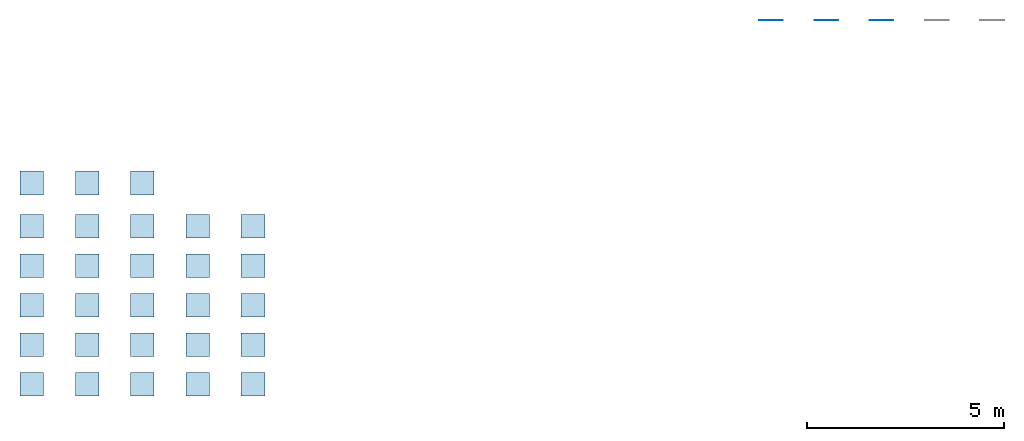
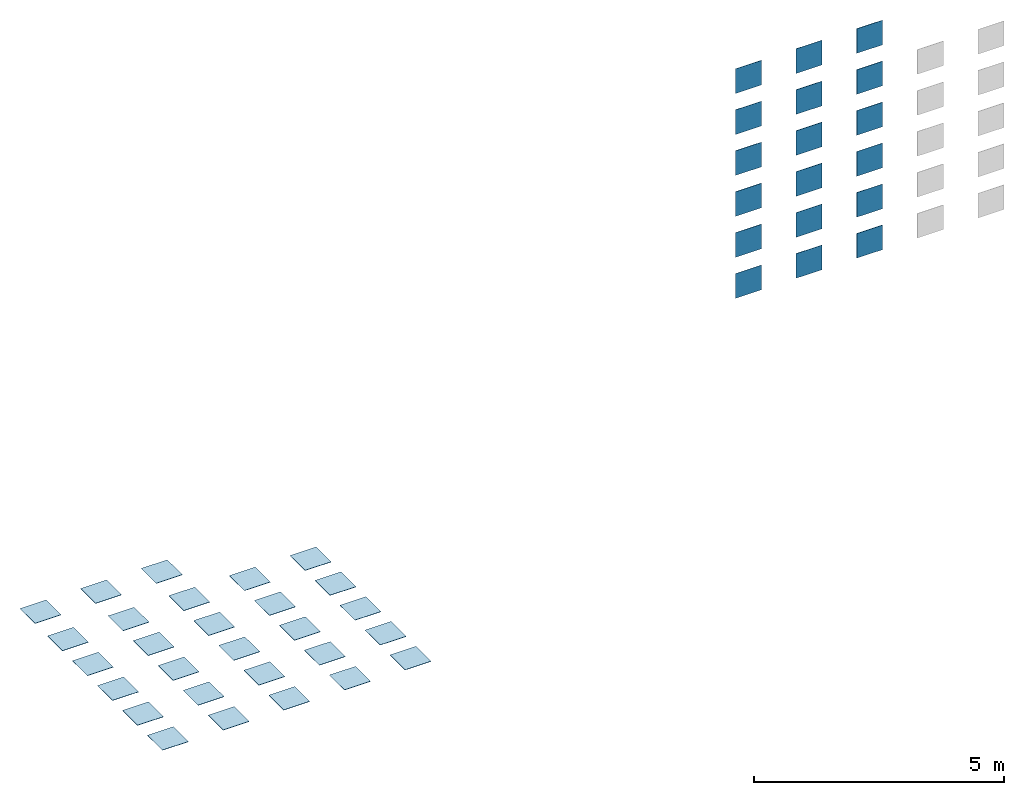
# One storey, part 1 of 2: 28 slabs, 18 walls.
"""IFC2X3 building model written with IfcOpenShell, lengths in metres."""

from ifc_helpers import new_model, entity, si_unit, converted_unit, derived_unit, direction, frame, frame_2d, origin, origin_2d_with_axis, place, context, subcontext, project, spatial, rectangle, extrude, material, layer, layer_set, layer_usage, type_object, element, save


model = new_model("IFC2X3")

# Units and contexts
model_context = context("Model", 3, precision=1e-05, world=origin(), true_north=direction((6.12303176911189e-17, 1.0)))
context_of_model = context(None, 3, precision=1e-05, world=origin(), true_north=direction((6.12303176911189e-17, 1.0)))
body_context = subcontext(model_context, "Body", "Model", "MODEL_VIEW")
ifc_project = project(units=[si_unit("LENGTHUNIT", "METRE"), si_unit("AREAUNIT", "SQUARE_METRE"), si_unit("VOLUMEUNIT", "CUBIC_METRE"), converted_unit("PLANEANGLEUNIT", "DEGREE", entity("IfcRatioMeasure", 0.0174532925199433), si_unit("PLANEANGLEUNIT", "RADIAN"), dimensions=[0, 0, 0, 0, 0, 0, 0]), si_unit("MASSUNIT", "GRAM", prefix="KILO"), si_unit("TIMEUNIT", "SECOND"), si_unit("FREQUENCYUNIT", "HERTZ"), si_unit("THERMODYNAMICTEMPERATUREUNIT", "DEGREE_CELSIUS"), derived_unit("THERMALTRANSMITTANCEUNIT", [(si_unit("MASSUNIT", "GRAM", prefix="KILO"), 1), (si_unit("THERMODYNAMICTEMPERATUREUNIT", "KELVIN"), -1), (si_unit("TIMEUNIT", "SECOND"), -3)]), derived_unit("VOLUMETRICFLOWRATEUNIT", [(si_unit("LENGTHUNIT", "METRE"), 3), (si_unit("TIMEUNIT", "SECOND"), -1)]), si_unit("ELECTRICCURRENTUNIT", "AMPERE"), si_unit("ELECTRICVOLTAGEUNIT", "VOLT"), si_unit("POWERUNIT", "WATT"), si_unit("FORCEUNIT", "NEWTON", prefix="KILO"), si_unit("ILLUMINANCEUNIT", "LUX"), si_unit("LUMINOUSFLUXUNIT", "LUMEN"), si_unit("LUMINOUSINTENSITYUNIT", "CANDELA"), si_unit("PRESSUREUNIT", "PASCAL")], contexts=[model_context, context_of_model])

# Site, building, storey
site_placement = place(None, origin())
site = spatial("IfcSite", under=ifc_project, at=site_placement, Name="Default", CompositionType="ELEMENT")
building_placement = place(site_placement, origin())
building = spatial("IfcBuilding", under=site, at=building_placement, CompositionType="ELEMENT")
storey_placement = place(building_placement, origin())
storey = spatial("IfcBuildingStorey", under=building, at=storey_placement, Name="BENACO FLOOR TILES", CompositionType="ELEMENT", Elevation=0.0)

# Slabs
ifc_material_1 = material(Name="VIVES VODEVIL NACAR 20x20")
ifc_layer_1 = layer(ifc_material_1, 0.008)
ifc_layer_set_1 = layer_set([ifc_layer_1], Name="Suelo:VIVES VODEVIL NACAR 20x20")
ifc_layer_usage_1 = layer_usage(ifc_layer_set_1, "AXIS3", "POSITIVE", 0.0)
slab_1_placement = place(storey_placement, origin())
element("IfcSlab", 1, at=slab_1_placement, inside=storey, material=ifc_layer_usage_1, Name="Suelo:VIVES VODEVIL NACAR 20x20", ObjectType="Suelo:VIVES VODEVIL NACAR 20x20", PredefinedType="FLOOR", context=body_context, shape_type="SweptSolid", body=[
    extrude(rectangle(XDim=0.6, YDim=0.6, at=origin_2d_with_axis()), frame((-1.89767402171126, -3.50495505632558, 0.0), z_axis=(0.0, 0.0, -1.0), x_axis=(0.0, 1.0, 0.0)), (0.0, 0.0, 1.0), 0.008),
])
ifc_material_2 = material(Name="VIVES VODEVIL ANTRACITA 20x20")
ifc_layer_2 = layer(ifc_material_2, 0.008)
ifc_layer_set_2 = layer_set([ifc_layer_2], Name="Suelo:VIVES VODEVIL ANTRACITA 20x20")
ifc_layer_usage_2 = layer_usage(ifc_layer_set_2, "AXIS3", "POSITIVE", 0.0)
slab_2_placement = place(storey_placement, origin())
element("IfcSlab", 2, at=slab_2_placement, inside=storey, material=ifc_layer_usage_2, Name="Suelo:VIVES VODEVIL ANTRACITA 20x20", ObjectType="Suelo:VIVES VODEVIL ANTRACITA 20x20", PredefinedType="FLOOR", context=body_context, shape_type="SweptSolid", body=[
    extrude(rectangle(XDim=0.6, YDim=0.6, at=origin_2d_with_axis()), frame((-0.497674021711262, -3.50495505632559, 0.0), z_axis=(0.0, 0.0, -1.0), x_axis=(0.0, 1.0, 0.0)), (0.0, 0.0, 1.0), 0.008),
])
ifc_material_3 = material(Name="VIVES VODEVIL MARRON 20x20")
ifc_layer_3 = layer(ifc_material_3, 0.008)
ifc_layer_set_3 = layer_set([ifc_layer_3], Name="Suelo:VIVES VODEVIL MARRON 20x20")
ifc_layer_usage_3 = layer_usage(ifc_layer_set_3, "AXIS3", "POSITIVE", 0.0)
slab_3_placement = place(storey_placement, origin())
element("IfcSlab", 3, at=slab_3_placement, inside=storey, material=ifc_layer_usage_3, Name="Suelo:VIVES VODEVIL MARRON 20x20", ObjectType="Suelo:VIVES VODEVIL MARRON 20x20", PredefinedType="FLOOR", context=body_context, shape_type="SweptSolid", body=[
    extrude(rectangle(XDim=0.6, YDim=0.6, at=origin_2d_with_axis()), frame((0.902325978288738, -3.50495505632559, 0.0), z_axis=(0.0, 0.0, -1.0), x_axis=(0.0, 1.0, 0.0)), (0.0, 0.0, 1.0), 0.008),
])
ifc_material_4 = material(Name="VIVES VODEVIL HUMO 20x20")
ifc_layer_4 = layer(ifc_material_4, 0.008)
ifc_layer_set_4 = layer_set([ifc_layer_4], Name="Suelo:VIVES VODEVIL HUMO 20x20")
ifc_layer_usage_4 = layer_usage(ifc_layer_set_4, "AXIS3", "POSITIVE", 0.0)
slab_4_placement = place(storey_placement, origin())
element("IfcSlab", 4, at=slab_4_placement, inside=storey, material=ifc_layer_usage_4, Name="Suelo:VIVES VODEVIL HUMO 20x20", ObjectType="Suelo:VIVES VODEVIL HUMO 20x20", PredefinedType="FLOOR", context=body_context, shape_type="SweptSolid", body=[
    extrude(rectangle(XDim=0.600000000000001, YDim=0.6, at=frame_2d((2.4980018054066e-16, 0.0), x_axis=(1.0, 0.0))), frame((-1.89767402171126, -4.60495505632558, 0.0), z_axis=(0.0, 0.0, -1.0), x_axis=(0.0, 1.0, 0.0)), (0.0, 0.0, 1.0), 0.008),
])
ifc_material_5 = material(Name="VIVES VODEVIL NUBE 20x20")
ifc_layer_5 = layer(ifc_material_5, 0.008)
ifc_layer_set_5 = layer_set([ifc_layer_5], Name="Suelo:VIVES VODEVIL NUBE 20x20")
ifc_layer_usage_5 = layer_usage(ifc_layer_set_5, "AXIS3", "POSITIVE", 0.0)
slab_5_placement = place(storey_placement, origin())
element("IfcSlab", 5, at=slab_5_placement, inside=storey, material=ifc_layer_usage_5, Name="Suelo:VIVES VODEVIL NUBE 20x20", ObjectType="Suelo:VIVES VODEVIL NUBE 20x20", PredefinedType="FLOOR", context=body_context, shape_type="SweptSolid", body=[
    extrude(rectangle(XDim=0.600000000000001, YDim=0.6, at=frame_2d((2.4980018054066e-16, 0.0), x_axis=(1.0, 0.0))), frame((-0.497674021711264, -4.60495505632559, 0.0), z_axis=(0.0, 0.0, -1.0), x_axis=(0.0, 1.0, 0.0)), (0.0, 0.0, 1.0), 0.008),
])
ifc_material_6 = material(Name="VIVES VODEVIL BEIGE 20x20")
ifc_layer_6 = layer(ifc_material_6, 0.008)
ifc_layer_set_6 = layer_set([ifc_layer_6], Name="Suelo:VIVES VODEVIL BEIGE 20x20")
ifc_layer_usage_6 = layer_usage(ifc_layer_set_6, "AXIS3", "POSITIVE", 0.0)
slab_6_placement = place(storey_placement, origin())
element("IfcSlab", 6, at=slab_6_placement, inside=storey, material=ifc_layer_usage_6, Name="Suelo:VIVES VODEVIL BEIGE 20x20", ObjectType="Suelo:VIVES VODEVIL BEIGE 20x20", PredefinedType="FLOOR", context=body_context, shape_type="SweptSolid", body=[
    extrude(rectangle(XDim=0.600000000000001, YDim=0.6, at=frame_2d((2.4980018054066e-16, 0.0), x_axis=(1.0, 0.0))), frame((0.902325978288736, -4.60495505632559, 0.0), z_axis=(0.0, 0.0, -1.0), x_axis=(0.0, 1.0, 0.0)), (0.0, 0.0, 1.0), 0.008),
])
ifc_material_7 = material(Name="VIVES VODEVIL CORAL 20x20")
ifc_layer_7 = layer(ifc_material_7, 0.008)
ifc_layer_set_7 = layer_set([ifc_layer_7], Name="Suelo:VIVES VODEVIL CORAL 20x20")
ifc_layer_usage_7 = layer_usage(ifc_layer_set_7, "AXIS3", "POSITIVE", 0.0)
slab_7_placement = place(storey_placement, origin())
element("IfcSlab", 7, at=slab_7_placement, inside=storey, material=ifc_layer_usage_7, Name="Suelo:VIVES VODEVIL CORAL 20x20", ObjectType="Suelo:VIVES VODEVIL CORAL 20x20", PredefinedType="FLOOR", context=body_context, shape_type="SweptSolid", body=[
    extrude(rectangle(XDim=0.600000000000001, YDim=0.6, at=frame_2d((2.4980018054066e-16, 0.0), x_axis=(1.0, 0.0))), frame((2.30232597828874, -4.6049550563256, 0.0), z_axis=(0.0, 0.0, -1.0), x_axis=(0.0, 1.0, 0.0)), (0.0, 0.0, 1.0), 0.008),
])
ifc_material_8 = material(Name="VIVES VODEVIL MAR 20x20")
ifc_layer_8 = layer(ifc_material_8, 0.008)
ifc_layer_set_8 = layer_set([ifc_layer_8], Name="Suelo:VIVES VODEVIL MAR 20x20")
ifc_layer_usage_8 = layer_usage(ifc_layer_set_8, "AXIS3", "POSITIVE", 0.0)
slab_8_placement = place(storey_placement, origin())
element("IfcSlab", 8, at=slab_8_placement, inside=storey, material=ifc_layer_usage_8, Name="Suelo:VIVES VODEVIL MAR 20x20", ObjectType="Suelo:VIVES VODEVIL MAR 20x20", PredefinedType="FLOOR", context=body_context, shape_type="SweptSolid", body=[
    extrude(rectangle(XDim=0.600000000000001, YDim=0.6, at=frame_2d((2.4980018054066e-16, 0.0), x_axis=(1.0, 0.0))), frame((3.70232597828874, -4.6049550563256, 0.0), z_axis=(0.0, 0.0, -1.0), x_axis=(0.0, 1.0, 0.0)), (0.0, 0.0, 1.0), 0.008),
])
ifc_material_9 = material(Name="VIVES BENACO HUMO 20x20")
ifc_layer_9 = layer(ifc_material_9, 0.008)
ifc_layer_set_9 = layer_set([ifc_layer_9], Name="Suelo:VIVES BENACO HUMO 20x20")
ifc_layer_usage_9 = layer_usage(ifc_layer_set_9, "AXIS3", "POSITIVE", 0.0)
slab_9_placement = place(storey_placement, origin())
element("IfcSlab", 9, at=slab_9_placement, inside=storey, material=ifc_layer_usage_9, Name="Suelo:VIVES BENACO HUMO 20x20", ObjectType="Suelo:VIVES BENACO HUMO 20x20", PredefinedType="FLOOR", context=body_context, shape_type="SweptSolid", body=[
    extrude(rectangle(XDim=0.6, YDim=0.6, at=origin_2d_with_axis()), frame((-1.89767402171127, -5.60495505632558, 0.0), z_axis=(0.0, 0.0, -1.0), x_axis=(0.0, 1.0, 0.0)), (0.0, 0.0, 1.0), 0.008),
])
ifc_material_10 = material(Name="VIVES BENACO NUBE 20x20")
ifc_layer_10 = layer(ifc_material_10, 0.008)
ifc_layer_set_10 = layer_set([ifc_layer_10], Name="Suelo:VIVES BENACO NUBE 20x20")
ifc_layer_usage_10 = layer_usage(ifc_layer_set_10, "AXIS3", "POSITIVE", 0.0)
slab_10_placement = place(storey_placement, origin())
element("IfcSlab", 10, at=slab_10_placement, inside=storey, material=ifc_layer_usage_10, Name="Suelo:VIVES BENACO NUBE 20x20", ObjectType="Suelo:VIVES BENACO NUBE 20x20", PredefinedType="FLOOR", context=body_context, shape_type="SweptSolid", body=[
    extrude(rectangle(XDim=0.6, YDim=0.6, at=origin_2d_with_axis()), frame((-0.497674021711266, -5.60495505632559, 0.0), z_axis=(0.0, 0.0, -1.0), x_axis=(0.0, 1.0, 0.0)), (0.0, 0.0, 1.0), 0.008),
])
ifc_material_11 = material(Name="VIVES BENACO BEIGE 20x20")
ifc_layer_11 = layer(ifc_material_11, 0.008)
ifc_layer_set_11 = layer_set([ifc_layer_11], Name="Suelo:VIVES BENACO BEIGE 20x20")
ifc_layer_usage_11 = layer_usage(ifc_layer_set_11, "AXIS3", "POSITIVE", 0.0)
slab_11_placement = place(storey_placement, origin())
element("IfcSlab", 11, at=slab_11_placement, inside=storey, material=ifc_layer_usage_11, Name="Suelo:VIVES BENACO BEIGE 20x20", ObjectType="Suelo:VIVES BENACO BEIGE 20x20", PredefinedType="FLOOR", context=body_context, shape_type="SweptSolid", body=[
    extrude(rectangle(XDim=0.6, YDim=0.6, at=origin_2d_with_axis()), frame((0.902325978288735, -5.60495505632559, 0.0), z_axis=(0.0, 0.0, -1.0), x_axis=(0.0, 1.0, 0.0)), (0.0, 0.0, 1.0), 0.008),
])
ifc_material_12 = material(Name="VIVES BENACO CORAL 20x20")
ifc_layer_12 = layer(ifc_material_12, 0.008)
ifc_layer_set_12 = layer_set([ifc_layer_12], Name="Suelo:VIVES BENACO CORAL 20x20")
ifc_layer_usage_12 = layer_usage(ifc_layer_set_12, "AXIS3", "POSITIVE", 0.0)
slab_12_placement = place(storey_placement, origin())
element("IfcSlab", 12, at=slab_12_placement, inside=storey, material=ifc_layer_usage_12, Name="Suelo:VIVES BENACO CORAL 20x20", ObjectType="Suelo:VIVES BENACO CORAL 20x20", PredefinedType="FLOOR", context=body_context, shape_type="SweptSolid", body=[
    extrude(rectangle(XDim=0.6, YDim=0.6, at=origin_2d_with_axis()), frame((2.30232597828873, -5.6049550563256, 0.0), z_axis=(0.0, 0.0, -1.0), x_axis=(0.0, 1.0, 0.0)), (0.0, 0.0, 1.0), 0.008),
])
ifc_material_13 = material(Name="VIVES BENACO MAR 20x20")
ifc_layer_13 = layer(ifc_material_13, 0.008)
ifc_layer_set_13 = layer_set([ifc_layer_13], Name="Suelo:VIVES BENACO MAR 20x20")
ifc_layer_usage_13 = layer_usage(ifc_layer_set_13, "AXIS3", "POSITIVE", 0.0)
slab_13_placement = place(storey_placement, origin())
element("IfcSlab", 13, at=slab_13_placement, inside=storey, material=ifc_layer_usage_13, Name="Suelo:VIVES BENACO MAR 20x20", ObjectType="Suelo:VIVES BENACO MAR 20x20", PredefinedType="FLOOR", context=body_context, shape_type="SweptSolid", body=[
    extrude(rectangle(XDim=0.6, YDim=0.6, at=origin_2d_with_axis()), frame((3.70232597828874, -5.6049550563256, 0.0), z_axis=(0.0, 0.0, -1.0), x_axis=(0.0, 1.0, 0.0)), (0.0, 0.0, 1.0), 0.008),
])
ifc_material_14 = material(Name="VIVES CAROLE HUMO 20x20")
ifc_layer_14 = layer(ifc_material_14, 0.008)
ifc_layer_set_14 = layer_set([ifc_layer_14], Name="Suelo:VIVES CAROLE HUMO 20x20")
ifc_layer_usage_14 = layer_usage(ifc_layer_set_14, "AXIS3", "POSITIVE", 0.0)
slab_14_placement = place(storey_placement, origin())
element("IfcSlab", 14, at=slab_14_placement, inside=storey, material=ifc_layer_usage_14, Name="Suelo:VIVES CAROLE HUMO 20x20", ObjectType="Suelo:VIVES CAROLE HUMO 20x20", PredefinedType="FLOOR", context=body_context, shape_type="SweptSolid", body=[
    extrude(rectangle(XDim=0.6, YDim=0.6, at=frame_2d((1.08246744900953e-15, 0.0), x_axis=(1.0, 0.0))), frame((-1.89767402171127, -6.60495505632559, 0.0), z_axis=(0.0, 0.0, -1.0), x_axis=(0.0, 1.0, 0.0)), (0.0, 0.0, 1.0), 0.008),
])
ifc_material_15 = material(Name="VIVES CAROLE NUBE 20x20")
ifc_layer_15 = layer(ifc_material_15, 0.008)
ifc_layer_set_15 = layer_set([ifc_layer_15], Name="Suelo:VIVES CAROLE NUBE 20x20")
ifc_layer_usage_15 = layer_usage(ifc_layer_set_15, "AXIS3", "POSITIVE", 0.0)
slab_15_placement = place(storey_placement, origin())
element("IfcSlab", 15, at=slab_15_placement, inside=storey, material=ifc_layer_usage_15, Name="Suelo:VIVES CAROLE NUBE 20x20", ObjectType="Suelo:VIVES CAROLE NUBE 20x20", PredefinedType="FLOOR", context=body_context, shape_type="SweptSolid", body=[
    extrude(rectangle(XDim=0.6, YDim=0.6, at=frame_2d((-1.08246744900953e-15, 0.0), x_axis=(1.0, 0.0))), frame((-0.497674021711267, -6.60495505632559, 0.0), z_axis=(0.0, 0.0, -1.0), x_axis=(0.0, 1.0, 0.0)), (0.0, 0.0, 1.0), 0.008),
])
ifc_material_16 = material(Name="VIVES CAROLE BEIGE 20x20")
ifc_layer_16 = layer(ifc_material_16, 0.008)
ifc_layer_set_16 = layer_set([ifc_layer_16], Name="Suelo:VIVES CAROLE BEIGE 20x20")
ifc_layer_usage_16 = layer_usage(ifc_layer_set_16, "AXIS3", "POSITIVE", 0.0)
slab_16_placement = place(storey_placement, origin())
element("IfcSlab", 16, at=slab_16_placement, inside=storey, material=ifc_layer_usage_16, Name="Suelo:VIVES CAROLE BEIGE 20x20", ObjectType="Suelo:VIVES CAROLE BEIGE 20x20", PredefinedType="FLOOR", context=body_context, shape_type="SweptSolid", body=[
    extrude(rectangle(XDim=0.6, YDim=0.6, at=frame_2d((1.08246744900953e-15, 0.0), x_axis=(1.0, 0.0))), frame((0.902325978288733, -6.60495505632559, 0.0), z_axis=(0.0, 0.0, -1.0), x_axis=(0.0, 1.0, 0.0)), (0.0, 0.0, 1.0), 0.008),
])
ifc_material_17 = material(Name="VIVES CAROLE CORAL 20x20")
ifc_layer_17 = layer(ifc_material_17, 0.008)
ifc_layer_set_17 = layer_set([ifc_layer_17], Name="Suelo:VIVES CAROLE CORAL 20x20")
ifc_layer_usage_17 = layer_usage(ifc_layer_set_17, "AXIS3", "POSITIVE", 0.0)
slab_17_placement = place(storey_placement, origin())
element("IfcSlab", 17, at=slab_17_placement, inside=storey, material=ifc_layer_usage_17, Name="Suelo:VIVES CAROLE CORAL 20x20", ObjectType="Suelo:VIVES CAROLE CORAL 20x20", PredefinedType="FLOOR", context=body_context, shape_type="SweptSolid", body=[
    extrude(rectangle(XDim=0.6, YDim=0.6, at=frame_2d((-1.08246744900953e-15, 0.0), x_axis=(1.0, 0.0))), frame((2.30232597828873, -6.6049550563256, 0.0), z_axis=(0.0, 0.0, -1.0), x_axis=(0.0, 1.0, 0.0)), (0.0, 0.0, 1.0), 0.008),
])
ifc_material_18 = material(Name="VIVES CAROLE MAR 20x20")
ifc_layer_18 = layer(ifc_material_18, 0.008)
ifc_layer_set_18 = layer_set([ifc_layer_18], Name="Suelo:VIVES CAROLE MAR 20x20")
ifc_layer_usage_18 = layer_usage(ifc_layer_set_18, "AXIS3", "POSITIVE", 0.0)
slab_18_placement = place(storey_placement, origin())
element("IfcSlab", 18, at=slab_18_placement, inside=storey, material=ifc_layer_usage_18, Name="Suelo:VIVES CAROLE MAR 20x20", ObjectType="Suelo:VIVES CAROLE MAR 20x20", PredefinedType="FLOOR", context=body_context, shape_type="SweptSolid", body=[
    extrude(rectangle(XDim=0.6, YDim=0.6, at=frame_2d((1.08246744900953e-15, 0.0), x_axis=(1.0, 0.0))), frame((3.70232597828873, -6.6049550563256, 0.0), z_axis=(0.0, 0.0, -1.0), x_axis=(0.0, 1.0, 0.0)), (0.0, 0.0, 1.0), 0.008),
])
ifc_material_19 = material(Name="VIVES PIGNETO HUMO 20x20")
ifc_layer_19 = layer(ifc_material_19, 0.008)
ifc_layer_set_19 = layer_set([ifc_layer_19], Name="Suelo:VIVES PIGNETO HUMO 20x20")
ifc_layer_usage_19 = layer_usage(ifc_layer_set_19, "AXIS3", "POSITIVE", 0.0)
slab_19_placement = place(storey_placement, origin())
element("IfcSlab", 19, at=slab_19_placement, inside=storey, material=ifc_layer_usage_19, Name="Suelo:VIVES PIGNETO HUMO 20x20", ObjectType="Suelo:VIVES PIGNETO HUMO 20x20", PredefinedType="FLOOR", context=body_context, shape_type="SweptSolid", body=[
    extrude(rectangle(XDim=0.6, YDim=0.6, at=origin_2d_with_axis()), frame((-1.89767402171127, -7.60495505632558, 0.0), z_axis=(0.0, 0.0, -1.0), x_axis=(0.0, 1.0, 0.0)), (0.0, 0.0, 1.0), 0.008),
])
ifc_material_20 = material(Name="VIVES PIGNETO NUBE 20x20")
ifc_layer_20 = layer(ifc_material_20, 0.008)
ifc_layer_set_20 = layer_set([ifc_layer_20], Name="Suelo:VIVES PIGNETO NUBE 20x20")
ifc_layer_usage_20 = layer_usage(ifc_layer_set_20, "AXIS3", "POSITIVE", 0.0)
slab_20_placement = place(storey_placement, origin())
element("IfcSlab", 20, at=slab_20_placement, inside=storey, material=ifc_layer_usage_20, Name="Suelo:VIVES PIGNETO NUBE 20x20", ObjectType="Suelo:VIVES PIGNETO NUBE 20x20", PredefinedType="FLOOR", context=body_context, shape_type="SweptSolid", body=[
    extrude(rectangle(XDim=0.6, YDim=0.6, at=origin_2d_with_axis()), frame((-0.497674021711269, -7.60495505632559, 0.0), z_axis=(0.0, 0.0, -1.0), x_axis=(0.0, 1.0, 0.0)), (0.0, 0.0, 1.0), 0.008),
])
ifc_material_21 = material(Name="VIVES PIGNETO BEIGE 20x20")
ifc_layer_21 = layer(ifc_material_21, 0.008)
ifc_layer_set_21 = layer_set([ifc_layer_21], Name="Suelo:VIVES PIGNETO BEIGE 20x20")
ifc_layer_usage_21 = layer_usage(ifc_layer_set_21, "AXIS3", "POSITIVE", 0.0)
slab_21_placement = place(storey_placement, origin())
element("IfcSlab", 21, at=slab_21_placement, inside=storey, material=ifc_layer_usage_21, Name="Suelo:VIVES PIGNETO BEIGE 20x20", ObjectType="Suelo:VIVES PIGNETO BEIGE 20x20", PredefinedType="FLOOR", context=body_context, shape_type="SweptSolid", body=[
    extrude(rectangle(XDim=0.6, YDim=0.6, at=origin_2d_with_axis()), frame((0.902325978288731, -7.60495505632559, 0.0), z_axis=(0.0, 0.0, -1.0), x_axis=(0.0, 1.0, 0.0)), (0.0, 0.0, 1.0), 0.008),
])
ifc_material_22 = material(Name="VIVES PIGNETO CORAL 20x20")
ifc_layer_22 = layer(ifc_material_22, 0.008)
ifc_layer_set_22 = layer_set([ifc_layer_22], Name="Suelo:VIVES PIGNETO CORAL 20x20")
ifc_layer_usage_22 = layer_usage(ifc_layer_set_22, "AXIS3", "POSITIVE", 0.0)
slab_22_placement = place(storey_placement, origin())
element("IfcSlab", 22, at=slab_22_placement, inside=storey, material=ifc_layer_usage_22, Name="Suelo:VIVES PIGNETO CORAL 20x20", ObjectType="Suelo:VIVES PIGNETO CORAL 20x20", PredefinedType="FLOOR", context=body_context, shape_type="SweptSolid", body=[
    extrude(rectangle(XDim=0.6, YDim=0.6, at=origin_2d_with_axis()), frame((2.30232597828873, -7.6049550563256, 0.0), z_axis=(0.0, 0.0, -1.0), x_axis=(0.0, 1.0, 0.0)), (0.0, 0.0, 1.0), 0.008),
])
ifc_material_23 = material(Name="VIVES PIGNETO MAR 20x20")
ifc_layer_23 = layer(ifc_material_23, 0.008)
ifc_layer_set_23 = layer_set([ifc_layer_23], Name="Suelo:VIVES PIGNETO MAR 20x20")
ifc_layer_usage_23 = layer_usage(ifc_layer_set_23, "AXIS3", "POSITIVE", 0.0)
slab_23_placement = place(storey_placement, origin())
element("IfcSlab", 23, at=slab_23_placement, inside=storey, material=ifc_layer_usage_23, Name="Suelo:VIVES PIGNETO MAR 20x20", ObjectType="Suelo:VIVES PIGNETO MAR 20x20", PredefinedType="FLOOR", context=body_context, shape_type="SweptSolid", body=[
    extrude(rectangle(XDim=0.6, YDim=0.6, at=origin_2d_with_axis()), frame((3.70232597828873, -7.6049550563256, 0.0), z_axis=(0.0, 0.0, -1.0), x_axis=(0.0, 1.0, 0.0)), (0.0, 0.0, 1.0), 0.008),
])
ifc_material_24 = material(Name="VIVES TERCELLO HUMO 20x20")
ifc_layer_24 = layer(ifc_material_24, 0.008)
ifc_layer_set_24 = layer_set([ifc_layer_24], Name="Suelo:VIVES TERCELLO HUMO 20x20")
ifc_layer_usage_24 = layer_usage(ifc_layer_set_24, "AXIS3", "POSITIVE", 0.0)
slab_24_placement = place(storey_placement, origin())
element("IfcSlab", 24, at=slab_24_placement, inside=storey, material=ifc_layer_usage_24, Name="Suelo:VIVES TERCELLO HUMO 20x20", ObjectType="Suelo:VIVES TERCELLO HUMO 20x20", PredefinedType="FLOOR", context=body_context, shape_type="SweptSolid", body=[
    extrude(rectangle(XDim=0.6, YDim=0.6, at=frame_2d((-1.08246744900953e-15, 0.0), x_axis=(1.0, 0.0))), frame((-1.89767402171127, -8.60495505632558, 0.0), z_axis=(0.0, 0.0, -1.0), x_axis=(0.0, 1.0, 0.0)), (0.0, 0.0, 1.0), 0.008),
])
ifc_material_25 = material(Name="VIVES TERCELLO NUBE 20x20")
ifc_layer_25 = layer(ifc_material_25, 0.008)
ifc_layer_set_25 = layer_set([ifc_layer_25], Name="Suelo:VIVES TERCELLO NUBE 20x20")
ifc_layer_usage_25 = layer_usage(ifc_layer_set_25, "AXIS3", "POSITIVE", 0.0)
slab_25_placement = place(storey_placement, origin())
element("IfcSlab", 25, at=slab_25_placement, inside=storey, material=ifc_layer_usage_25, Name="Suelo:VIVES TERCELLO NUBE 20x20", ObjectType="Suelo:VIVES TERCELLO NUBE 20x20", PredefinedType="FLOOR", context=body_context, shape_type="SweptSolid", body=[
    extrude(rectangle(XDim=0.6, YDim=0.6, at=frame_2d((1.08246744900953e-15, 0.0), x_axis=(1.0, 0.0))), frame((-0.497674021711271, -8.60495505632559, 0.0), z_axis=(0.0, 0.0, -1.0), x_axis=(0.0, 1.0, 0.0)), (0.0, 0.0, 1.0), 0.008),
])
ifc_material_26 = material(Name="VIVES TERCELLO BEIGE 20x20")
ifc_layer_26 = layer(ifc_material_26, 0.008)
ifc_layer_set_26 = layer_set([ifc_layer_26], Name="Suelo:VIVES TERCELLO BEIGE 20x20")
ifc_layer_usage_26 = layer_usage(ifc_layer_set_26, "AXIS3", "POSITIVE", 0.0)
slab_26_placement = place(storey_placement, origin())
element("IfcSlab", 26, at=slab_26_placement, inside=storey, material=ifc_layer_usage_26, Name="Suelo:VIVES TERCELLO BEIGE 20x20", ObjectType="Suelo:VIVES TERCELLO BEIGE 20x20", PredefinedType="FLOOR", context=body_context, shape_type="SweptSolid", body=[
    extrude(rectangle(XDim=0.6, YDim=0.6, at=frame_2d((-1.08246744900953e-15, 0.0), x_axis=(1.0, 0.0))), frame((0.90232597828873, -8.60495505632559, 0.0), z_axis=(0.0, 0.0, -1.0), x_axis=(0.0, 1.0, 0.0)), (0.0, 0.0, 1.0), 0.008),
])
ifc_material_27 = material(Name="VIVES TERCELLO CORAL 20x20")
ifc_layer_27 = layer(ifc_material_27, 0.008)
ifc_layer_set_27 = layer_set([ifc_layer_27], Name="Suelo:VIVES TERCELLO CORAL 20x20")
ifc_layer_usage_27 = layer_usage(ifc_layer_set_27, "AXIS3", "POSITIVE", 0.0)
slab_27_placement = place(storey_placement, origin())
element("IfcSlab", 27, at=slab_27_placement, inside=storey, material=ifc_layer_usage_27, Name="Suelo:VIVES TERCELLO CORAL 20x20", ObjectType="Suelo:VIVES TERCELLO CORAL 20x20", PredefinedType="FLOOR", context=body_context, shape_type="SweptSolid", body=[
    extrude(rectangle(XDim=0.6, YDim=0.6, at=frame_2d((1.08246744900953e-15, 0.0), x_axis=(1.0, 0.0))), frame((2.30232597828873, -8.6049550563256, 0.0), z_axis=(0.0, 0.0, -1.0), x_axis=(0.0, 1.0, 0.0)), (0.0, 0.0, 1.0), 0.008),
])
ifc_material_28 = material(Name="VIVES TERCELLO MAR 20x20")
ifc_layer_28 = layer(ifc_material_28, 0.008)
ifc_layer_set_28 = layer_set([ifc_layer_28], Name="Suelo:VIVES TERCELLO MAR 20x20")
ifc_layer_usage_28 = layer_usage(ifc_layer_set_28, "AXIS3", "POSITIVE", 0.0)
slab_28_placement = place(storey_placement, origin())
element("IfcSlab", 28, at=slab_28_placement, inside=storey, material=ifc_layer_usage_28, Name="Suelo:VIVES TERCELLO MAR 20x20", ObjectType="Suelo:VIVES TERCELLO MAR 20x20", PredefinedType="FLOOR", context=body_context, shape_type="SweptSolid", body=[
    extrude(rectangle(XDim=0.6, YDim=0.6, at=frame_2d((-1.08246744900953e-15, 0.0), x_axis=(1.0, 0.0))), frame((3.70232597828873, -8.6049550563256, 0.0), z_axis=(0.0, 0.0, -1.0), x_axis=(0.0, 1.0, 0.0)), (0.0, 0.0, 1.0), 0.008),
])

# Walls
ifc_layer_29 = layer(ifc_material_1, 0.008)
ifc_layer_set_29 = layer_set([ifc_layer_29], Name="Muro básico:VIVES VODEVIL NACAR 20x20")
ifc_layer_usage_29 = layer_usage(ifc_layer_set_29, "AXIS2", "NEGATIVE", 0.004)
wall_type_1 = type_object("IfcWallType", Name="Muro básico:VIVES VODEVIL NACAR 20x20", PredefinedType="STANDARD", material=ifc_layer_set_29)
wall_1_placement = place(storey_placement, frame((16.5278886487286, 0.618172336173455, 3.7)))
element("IfcWallStandardCase", 29, at=wall_1_placement, inside=storey, type_object=wall_type_1, material=ifc_layer_usage_29, Name="Muro básico:VIVES VODEVIL NACAR 20x20", ObjectType="Muro básico:VIVES VODEVIL NACAR 20x20", context=body_context, shape_type="SweptSolid", body=[
    extrude(rectangle(XDim=0.6, YDim=0.00800000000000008, at=frame_2d((0.3, -8.67361737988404e-18), x_axis=(-1.0, 0.0))), origin(), (0.0, 0.0, 1.0), 0.6),
])
ifc_layer_30 = layer(ifc_material_2, 0.008)
ifc_layer_set_30 = layer_set([ifc_layer_30], Name="Muro básico:VIVES VODEVIL ANTRACITA 20x20")
ifc_layer_usage_30 = layer_usage(ifc_layer_set_30, "AXIS2", "NEGATIVE", 0.004)
wall_type_2 = type_object("IfcWallType", Name="Muro básico:VIVES VODEVIL ANTRACITA 20x20", PredefinedType="STANDARD", material=ifc_layer_set_30)
wall_2_placement = place(storey_placement, frame((17.9278886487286, 0.618172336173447, 3.7)))
element("IfcWallStandardCase", 30, at=wall_2_placement, inside=storey, type_object=wall_type_2, material=ifc_layer_usage_30, Name="Muro básico:VIVES VODEVIL ANTRACITA 20x20", ObjectType="Muro básico:VIVES VODEVIL ANTRACITA 20x20", context=body_context, shape_type="SweptSolid", body=[
    extrude(rectangle(XDim=0.6, YDim=0.00800000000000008, at=frame_2d((0.3, -8.67361737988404e-18), x_axis=(-1.0, 0.0))), origin(), (0.0, 0.0, 1.0), 0.6),
])
ifc_layer_31 = layer(ifc_material_3, 0.008)
ifc_layer_set_31 = layer_set([ifc_layer_31], Name="Muro básico:VIVES VODEVIL MARRÓN 20x20")
ifc_layer_usage_31 = layer_usage(ifc_layer_set_31, "AXIS2", "NEGATIVE", 0.004)
wall_type_3 = type_object("IfcWallType", Name="Muro básico:VIVES VODEVIL MARRÓN 20x20", PredefinedType="STANDARD", material=ifc_layer_set_31)
wall_3_placement = place(storey_placement, frame((19.3278886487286, 0.61817233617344, 3.7)))
element("IfcWallStandardCase", 31, at=wall_3_placement, inside=storey, type_object=wall_type_3, material=ifc_layer_usage_31, Name="Muro básico:VIVES VODEVIL MARRÓN 20x20", ObjectType="Muro básico:VIVES VODEVIL MARRÓN 20x20", context=body_context, shape_type="SweptSolid", body=[
    extrude(rectangle(XDim=0.600000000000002, YDim=0.00800000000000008, at=frame_2d((0.300000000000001, -8.67361737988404e-18), x_axis=(-1.0, 0.0))), origin(), (0.0, 0.0, 1.0), 0.6),
])
ifc_layer_32 = layer(ifc_material_4, 0.008)
ifc_layer_set_32 = layer_set([ifc_layer_32], Name="Muro básico:VIVES VODEVIL HUMO 20x20")
ifc_layer_usage_32 = layer_usage(ifc_layer_set_32, "AXIS2", "NEGATIVE", 0.004)
wall_type_4 = type_object("IfcWallType", Name="Muro básico:VIVES VODEVIL HUMO 20x20", PredefinedType="STANDARD", material=ifc_layer_set_32)
wall_4_placement = place(storey_placement, frame((16.5278886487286, 0.618172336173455, 2.7)))
element("IfcWallStandardCase", 32, at=wall_4_placement, inside=storey, type_object=wall_type_4, material=ifc_layer_usage_32, Name="Muro básico:VIVES VODEVIL HUMO 20x20", ObjectType="Muro básico:VIVES VODEVIL HUMO 20x20", context=body_context, shape_type="SweptSolid", body=[
    extrude(rectangle(XDim=0.6, YDim=0.00800000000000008, at=frame_2d((0.3, -8.67361737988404e-18), x_axis=(-1.0, 0.0))), origin(), (0.0, 0.0, 1.0), 0.6),
])
ifc_layer_33 = layer(ifc_material_5, 0.008)
ifc_layer_set_33 = layer_set([ifc_layer_33], Name="Muro básico:VIVES VODEVIL NUBE 20x20")
ifc_layer_usage_33 = layer_usage(ifc_layer_set_33, "AXIS2", "NEGATIVE", 0.004)
wall_type_5 = type_object("IfcWallType", Name="Muro básico:VIVES VODEVIL NUBE 20x20", PredefinedType="STANDARD", material=ifc_layer_set_33)
wall_5_placement = place(storey_placement, frame((17.9278886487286, 0.618172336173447, 2.7)))
element("IfcWallStandardCase", 33, at=wall_5_placement, inside=storey, type_object=wall_type_5, material=ifc_layer_usage_33, Name="Muro básico:VIVES VODEVIL NUBE 20x20", ObjectType="Muro básico:VIVES VODEVIL NUBE 20x20", context=body_context, shape_type="SweptSolid", body=[
    extrude(rectangle(XDim=0.6, YDim=0.00800000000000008, at=frame_2d((0.3, -8.67361737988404e-18), x_axis=(-1.0, 0.0))), origin(), (0.0, 0.0, 1.0), 0.6),
])
ifc_layer_34 = layer(ifc_material_6, 0.008)
ifc_layer_set_34 = layer_set([ifc_layer_34], Name="Muro básico:VIVES VODEVIL BEIGE 20x20")
ifc_layer_usage_34 = layer_usage(ifc_layer_set_34, "AXIS2", "NEGATIVE", 0.004)
wall_type_6 = type_object("IfcWallType", Name="Muro básico:VIVES VODEVIL BEIGE 20x20", PredefinedType="STANDARD", material=ifc_layer_set_34)
wall_6_placement = place(storey_placement, frame((19.3278886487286, 0.61817233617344, 2.7)))
element("IfcWallStandardCase", 34, at=wall_6_placement, inside=storey, type_object=wall_type_6, material=ifc_layer_usage_34, Name="Muro básico:VIVES VODEVIL BEIGE 20x20", ObjectType="Muro básico:VIVES VODEVIL BEIGE 20x20", context=body_context, shape_type="SweptSolid", body=[
    extrude(rectangle(XDim=0.600000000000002, YDim=0.00800000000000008, at=frame_2d((0.300000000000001, -8.67361737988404e-18), x_axis=(-1.0, 0.0))), origin(), (0.0, 0.0, 1.0), 0.6),
])
ifc_layer_35 = layer(ifc_material_9, 0.008)
ifc_layer_set_35 = layer_set([ifc_layer_35], Name="Muro básico:VIVES BENACO HUMO 20x20")
ifc_layer_usage_35 = layer_usage(ifc_layer_set_35, "AXIS2", "NEGATIVE", 0.004)
wall_type_7 = type_object("IfcWallType", Name="Muro básico:VIVES BENACO HUMO 20x20", PredefinedType="STANDARD", material=ifc_layer_set_35)
wall_7_placement = place(storey_placement, frame((16.5278886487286, 0.618172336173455, 1.7)))
element("IfcWallStandardCase", 35, at=wall_7_placement, inside=storey, type_object=wall_type_7, material=ifc_layer_usage_35, Name="Muro básico:VIVES BENACO HUMO 20x20", ObjectType="Muro básico:VIVES BENACO HUMO 20x20", context=body_context, shape_type="SweptSolid", body=[
    extrude(rectangle(XDim=0.6, YDim=0.00800000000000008, at=frame_2d((0.3, -8.67361737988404e-18), x_axis=(-1.0, 0.0))), origin(), (0.0, 0.0, 1.0), 0.6),
])
ifc_layer_36 = layer(ifc_material_10, 0.008)
ifc_layer_set_36 = layer_set([ifc_layer_36], Name="Muro básico:VIVES BENACO NUBE 20x20")
ifc_layer_usage_36 = layer_usage(ifc_layer_set_36, "AXIS2", "NEGATIVE", 0.004)
wall_type_8 = type_object("IfcWallType", Name="Muro básico:VIVES BENACO NUBE 20x20", PredefinedType="STANDARD", material=ifc_layer_set_36)
wall_8_placement = place(storey_placement, frame((17.9278886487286, 0.618172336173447, 1.7)))
element("IfcWallStandardCase", 36, at=wall_8_placement, inside=storey, type_object=wall_type_8, material=ifc_layer_usage_36, Name="Muro básico:VIVES BENACO NUBE 20x20", ObjectType="Muro básico:VIVES BENACO NUBE 20x20", context=body_context, shape_type="SweptSolid", body=[
    extrude(rectangle(XDim=0.6, YDim=0.00800000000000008, at=frame_2d((0.3, -8.67361737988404e-18), x_axis=(-1.0, 0.0))), origin(), (0.0, 0.0, 1.0), 0.6),
])
ifc_layer_37 = layer(ifc_material_11, 0.008)
ifc_layer_set_37 = layer_set([ifc_layer_37], Name="Muro básico:VIVES BENACO BEIGE 20x20")
ifc_layer_usage_37 = layer_usage(ifc_layer_set_37, "AXIS2", "NEGATIVE", 0.004)
wall_type_9 = type_object("IfcWallType", Name="Muro básico:VIVES BENACO BEIGE 20x20", PredefinedType="STANDARD", material=ifc_layer_set_37)
wall_9_placement = place(storey_placement, frame((19.3278886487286, 0.61817233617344, 1.7)))
element("IfcWallStandardCase", 37, at=wall_9_placement, inside=storey, type_object=wall_type_9, material=ifc_layer_usage_37, Name="Muro básico:VIVES BENACO BEIGE 20x20", ObjectType="Muro básico:VIVES BENACO BEIGE 20x20", context=body_context, shape_type="SweptSolid", body=[
    extrude(rectangle(XDim=0.600000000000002, YDim=0.00800000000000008, at=frame_2d((0.300000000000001, -8.67361737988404e-18), x_axis=(-1.0, 0.0))), origin(), (0.0, 0.0, 1.0), 0.6),
])
ifc_layer_38 = layer(ifc_material_14, 0.008)
ifc_layer_set_38 = layer_set([ifc_layer_38], Name="Muro básico:VIVES CAROLE HUMO 20x20")
ifc_layer_usage_38 = layer_usage(ifc_layer_set_38, "AXIS2", "NEGATIVE", 0.004)
wall_type_10 = type_object("IfcWallType", Name="Muro básico:VIVES CAROLE HUMO 20x20", PredefinedType="STANDARD", material=ifc_layer_set_38)
wall_10_placement = place(storey_placement, frame((16.5278886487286, 0.618172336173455, 0.7)))
element("IfcWallStandardCase", 38, at=wall_10_placement, inside=storey, type_object=wall_type_10, material=ifc_layer_usage_38, Name="Muro básico:VIVES CAROLE HUMO 20x20", ObjectType="Muro básico:VIVES CAROLE HUMO 20x20", context=body_context, shape_type="SweptSolid", body=[
    extrude(rectangle(XDim=0.6, YDim=0.00800000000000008, at=frame_2d((0.3, -8.67361737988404e-18), x_axis=(-1.0, 0.0))), origin(), (0.0, 0.0, 1.0), 0.6),
])
ifc_layer_39 = layer(ifc_material_15, 0.008)
ifc_layer_set_39 = layer_set([ifc_layer_39], Name="Muro básico:VIVES CAROLE NUBE 20x20")
ifc_layer_usage_39 = layer_usage(ifc_layer_set_39, "AXIS2", "NEGATIVE", 0.004)
wall_type_11 = type_object("IfcWallType", Name="Muro básico:VIVES CAROLE NUBE 20x20", PredefinedType="STANDARD", material=ifc_layer_set_39)
wall_11_placement = place(storey_placement, frame((17.9278886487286, 0.618172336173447, 0.7)))
element("IfcWallStandardCase", 39, at=wall_11_placement, inside=storey, type_object=wall_type_11, material=ifc_layer_usage_39, Name="Muro básico:VIVES CAROLE NUBE 20x20", ObjectType="Muro básico:VIVES CAROLE NUBE 20x20", context=body_context, shape_type="SweptSolid", body=[
    extrude(rectangle(XDim=0.6, YDim=0.00800000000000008, at=frame_2d((0.3, -8.67361737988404e-18), x_axis=(-1.0, 0.0))), origin(), (0.0, 0.0, 1.0), 0.6),
])
ifc_layer_40 = layer(ifc_material_16, 0.008)
ifc_layer_set_40 = layer_set([ifc_layer_40], Name="Muro básico:VIVES CAROLE BEIGE 20x20")
ifc_layer_usage_40 = layer_usage(ifc_layer_set_40, "AXIS2", "NEGATIVE", 0.004)
wall_type_12 = type_object("IfcWallType", Name="Muro básico:VIVES CAROLE BEIGE 20x20", PredefinedType="STANDARD", material=ifc_layer_set_40)
wall_12_placement = place(storey_placement, frame((19.3278886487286, 0.61817233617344, 0.7)))
element("IfcWallStandardCase", 40, at=wall_12_placement, inside=storey, type_object=wall_type_12, material=ifc_layer_usage_40, Name="Muro básico:VIVES CAROLE BEIGE 20x20", ObjectType="Muro básico:VIVES CAROLE BEIGE 20x20", context=body_context, shape_type="SweptSolid", body=[
    extrude(rectangle(XDim=0.600000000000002, YDim=0.00800000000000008, at=frame_2d((0.300000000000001, -8.67361737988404e-18), x_axis=(-1.0, 0.0))), origin(), (0.0, 0.0, 1.0), 0.6),
])
ifc_layer_41 = layer(ifc_material_19, 0.008)
ifc_layer_set_41 = layer_set([ifc_layer_41], Name="Muro básico:VIVES PIGNETO HUMO 20x20")
ifc_layer_usage_41 = layer_usage(ifc_layer_set_41, "AXIS2", "NEGATIVE", 0.004)
wall_type_13 = type_object("IfcWallType", Name="Muro básico:VIVES PIGNETO HUMO 20x20", PredefinedType="STANDARD", material=ifc_layer_set_41)
wall_13_placement = place(storey_placement, frame((16.5278886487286, 0.618172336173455, -0.300000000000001)))
element("IfcWallStandardCase", 41, at=wall_13_placement, inside=storey, type_object=wall_type_13, material=ifc_layer_usage_41, Name="Muro básico:VIVES PIGNETO HUMO 20x20", ObjectType="Muro básico:VIVES PIGNETO HUMO 20x20", context=body_context, shape_type="SweptSolid", body=[
    extrude(rectangle(XDim=0.6, YDim=0.00800000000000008, at=frame_2d((0.3, -8.67361737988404e-18), x_axis=(-1.0, 0.0))), origin(), (0.0, 0.0, 1.0), 0.6),
])
ifc_layer_42 = layer(ifc_material_20, 0.008)
ifc_layer_set_42 = layer_set([ifc_layer_42], Name="Muro básico:VIVES PIGNETO NUBE 20x20")
ifc_layer_usage_42 = layer_usage(ifc_layer_set_42, "AXIS2", "NEGATIVE", 0.004)
wall_type_14 = type_object("IfcWallType", Name="Muro básico:VIVES PIGNETO NUBE 20x20", PredefinedType="STANDARD", material=ifc_layer_set_42)
wall_14_placement = place(storey_placement, frame((17.9278886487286, 0.618172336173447, -0.300000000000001)))
element("IfcWallStandardCase", 42, at=wall_14_placement, inside=storey, type_object=wall_type_14, material=ifc_layer_usage_42, Name="Muro básico:VIVES PIGNETO NUBE 20x20", ObjectType="Muro básico:VIVES PIGNETO NUBE 20x20", context=body_context, shape_type="SweptSolid", body=[
    extrude(rectangle(XDim=0.6, YDim=0.00800000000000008, at=frame_2d((0.3, -8.67361737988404e-18), x_axis=(-1.0, 0.0))), origin(), (0.0, 0.0, 1.0), 0.6),
])
ifc_layer_43 = layer(ifc_material_21, 0.008)
ifc_layer_set_43 = layer_set([ifc_layer_43], Name="Muro básico:VIVES PIGNETO BEIGE 20x20")
ifc_layer_usage_43 = layer_usage(ifc_layer_set_43, "AXIS2", "NEGATIVE", 0.004)
wall_type_15 = type_object("IfcWallType", Name="Muro básico:VIVES PIGNETO BEIGE 20x20", PredefinedType="STANDARD", material=ifc_layer_set_43)
wall_15_placement = place(storey_placement, frame((19.3278886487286, 0.61817233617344, -0.300000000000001)))
element("IfcWallStandardCase", 43, at=wall_15_placement, inside=storey, type_object=wall_type_15, material=ifc_layer_usage_43, Name="Muro básico:VIVES PIGNETO BEIGE 20x20", ObjectType="Muro básico:VIVES PIGNETO BEIGE 20x20", context=body_context, shape_type="SweptSolid", body=[
    extrude(rectangle(XDim=0.600000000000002, YDim=0.00800000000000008, at=frame_2d((0.300000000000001, -8.67361737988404e-18), x_axis=(-1.0, 0.0))), origin(), (0.0, 0.0, 1.0), 0.6),
])
ifc_layer_44 = layer(ifc_material_24, 0.008)
ifc_layer_set_44 = layer_set([ifc_layer_44], Name="Muro básico:VIVES TERCELLO HUMO 20x20")
ifc_layer_usage_44 = layer_usage(ifc_layer_set_44, "AXIS2", "NEGATIVE", 0.004)
wall_type_16 = type_object("IfcWallType", Name="Muro básico:VIVES TERCELLO HUMO 20x20", PredefinedType="STANDARD", material=ifc_layer_set_44)
wall_16_placement = place(storey_placement, frame((16.5278886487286, 0.618172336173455, -1.3)))
element("IfcWallStandardCase", 44, at=wall_16_placement, inside=storey, type_object=wall_type_16, material=ifc_layer_usage_44, Name="Muro básico:VIVES TERCELLO HUMO 20x20", ObjectType="Muro básico:VIVES TERCELLO HUMO 20x20", context=body_context, shape_type="SweptSolid", body=[
    extrude(rectangle(XDim=0.6, YDim=0.00800000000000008, at=frame_2d((0.3, -8.67361737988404e-18), x_axis=(-1.0, 0.0))), origin(), (0.0, 0.0, 1.0), 0.6),
])
ifc_layer_45 = layer(ifc_material_25, 0.008)
ifc_layer_set_45 = layer_set([ifc_layer_45], Name="Muro básico:VIVES TERCELLO NUBE 20x20")
ifc_layer_usage_45 = layer_usage(ifc_layer_set_45, "AXIS2", "NEGATIVE", 0.004)
wall_type_17 = type_object("IfcWallType", Name="Muro básico:VIVES TERCELLO NUBE 20x20", PredefinedType="STANDARD", material=ifc_layer_set_45)
wall_17_placement = place(storey_placement, frame((17.9278886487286, 0.618172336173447, -1.3)))
element("IfcWallStandardCase", 45, at=wall_17_placement, inside=storey, type_object=wall_type_17, material=ifc_layer_usage_45, Name="Muro básico:VIVES TERCELLO NUBE 20x20", ObjectType="Muro básico:VIVES TERCELLO NUBE 20x20", context=body_context, shape_type="SweptSolid", body=[
    extrude(rectangle(XDim=0.6, YDim=0.00800000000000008, at=frame_2d((0.3, -8.67361737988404e-18), x_axis=(-1.0, 0.0))), origin(), (0.0, 0.0, 1.0), 0.6),
])
ifc_layer_46 = layer(ifc_material_26, 0.008)
ifc_layer_set_46 = layer_set([ifc_layer_46], Name="Muro básico:VIVES TERCELLO BEIGE 20x20")
ifc_layer_usage_46 = layer_usage(ifc_layer_set_46, "AXIS2", "NEGATIVE", 0.004)
wall_type_18 = type_object("IfcWallType", Name="Muro básico:VIVES TERCELLO BEIGE 20x20", PredefinedType="STANDARD", material=ifc_layer_set_46)
wall_18_placement = place(storey_placement, frame((19.3278886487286, 0.61817233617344, -1.3)))
element("IfcWallStandardCase", 46, at=wall_18_placement, inside=storey, type_object=wall_type_18, material=ifc_layer_usage_46, Name="Muro básico:VIVES TERCELLO BEIGE 20x20", ObjectType="Muro básico:VIVES TERCELLO BEIGE 20x20", context=body_context, shape_type="SweptSolid", body=[
    extrude(rectangle(XDim=0.600000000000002, YDim=0.00800000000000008, at=frame_2d((0.300000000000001, -8.67361737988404e-18), x_axis=(-1.0, 0.0))), origin(), (0.0, 0.0, 1.0), 0.6),
])

save(model, "model.ifc")
